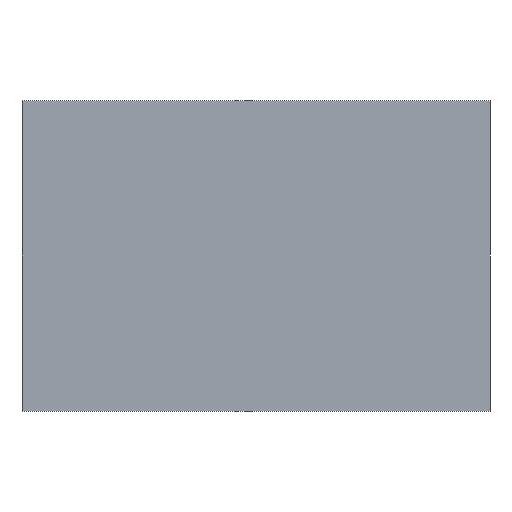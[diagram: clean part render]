
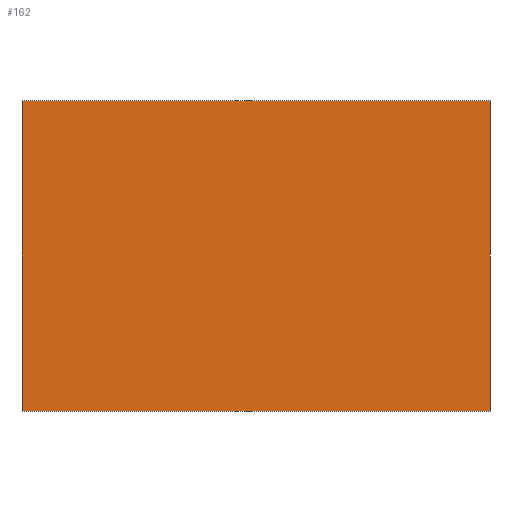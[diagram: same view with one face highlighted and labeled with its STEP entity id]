
A CAD part, front view. The second image highlights one B-rep face of the part: STEP entity #162.
In plain terms, the highlighted planar face has unit normal (0, -1, 0).
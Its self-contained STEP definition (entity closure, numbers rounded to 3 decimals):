
#25 = CARTESIAN_POINT ( 'NONE',  ( 296.75, 0., 196.75 ) ) ;
#27 = VECTOR ( 'NONE', #102, 1000. ) ;
#30 = DIRECTION ( 'NONE',  ( 0., 0., -1. ) ) ;
#31 = LINE ( 'NONE', #139, #222 ) ;
#40 = FACE_OUTER_BOUND ( 'NONE', #185, .T. ) ;
#46 = CARTESIAN_POINT ( 'NONE',  ( -296.75, 0., 196.75 ) ) ;
#48 = DIRECTION ( 'NONE',  ( 0., 0., 1. ) ) ;
#62 = CARTESIAN_POINT ( 'NONE',  ( 296.75, 0., 196.75 ) ) ;
#73 = AXIS2_PLACEMENT_3D ( 'NONE', #100, #126, #128 ) ;
#74 = CARTESIAN_POINT ( 'NONE',  ( 296.75, 0., -196.75 ) ) ;
#85 = CARTESIAN_POINT ( 'NONE',  ( -296.75, 0., 196.75 ) ) ;
#90 = CARTESIAN_POINT ( 'NONE',  ( -296.75, 0., -196.75 ) ) ;
#98 = CARTESIAN_POINT ( 'NONE',  ( 296.75, 0., 196.75 ) ) ;
#100 = CARTESIAN_POINT ( 'NONE',  ( 0., 0., 0. ) ) ;
#102 = DIRECTION ( 'NONE',  ( 1., 0., 0. ) ) ;
#105 = EDGE_CURVE ( 'NONE', #184, #203, #215, .T. ) ;
#126 = DIRECTION ( 'NONE',  ( 0., 1., 0. ) ) ;
#128 = DIRECTION ( 'NONE',  ( 0., 0., 1. ) ) ;
#139 = CARTESIAN_POINT ( 'NONE',  ( 296.75, 0., -196.75 ) ) ;
#143 = ORIENTED_EDGE ( 'NONE', *, *, #211, .F. ) ;
#146 = DIRECTION ( 'NONE',  ( -1., 0., 0. ) ) ;
#147 = ORIENTED_EDGE ( 'NONE', *, *, #199, .F. ) ;
#153 = ORIENTED_EDGE ( 'NONE', *, *, #105, .F. ) ;
#161 = VECTOR ( 'NONE', #30, 1000. ) ;
#162 = ADVANCED_FACE ( 'NONE', ( #40 ), #228, .F. ) ;
#166 = ORIENTED_EDGE ( 'NONE', *, *, #205, .F. ) ;
#175 = VERTEX_POINT ( 'NONE', #90 ) ;
#180 = VERTEX_POINT ( 'NONE', #74 ) ;
#184 = VERTEX_POINT ( 'NONE', #85 ) ;
#185 = EDGE_LOOP ( 'NONE', ( #166, #143, #147, #153 ) ) ;
#188 = VECTOR ( 'NONE', #48, 1000. ) ;
#199 = EDGE_CURVE ( 'NONE', #203, #180, #229, .T. ) ;
#203 = VERTEX_POINT ( 'NONE', #98 ) ;
#205 = EDGE_CURVE ( 'NONE', #175, #184, #233, .T. ) ;
#211 = EDGE_CURVE ( 'NONE', #180, #175, #31, .T. ) ;
#215 = LINE ( 'NONE', #62, #27 ) ;
#222 = VECTOR ( 'NONE', #146, 1000. ) ;
#228 = PLANE ( 'NONE',  #73 ) ;
#229 = LINE ( 'NONE', #25, #161 ) ;
#233 = LINE ( 'NONE', #46, #188 ) ;
